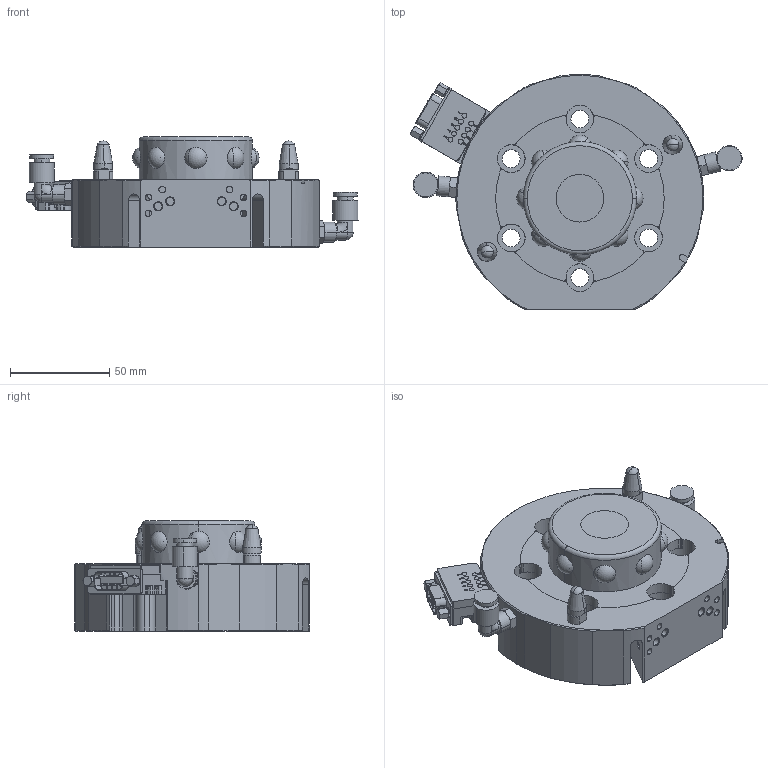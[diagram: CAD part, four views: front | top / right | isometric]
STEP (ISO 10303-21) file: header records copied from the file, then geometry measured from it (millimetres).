
FILE_DESCRIPTION (( 'STEP AP203' ), '1' );
FILE_NAME ('NSK-60D-¿Í»§.STEP', '2024-01-13T01:47:44', ( '' ), ( '' ), 'SwSTEP 2.0', 'SolidWorks 2018', '' );
FILE_SCHEMA (( 'CONFIG_CONTROL_DESIGN' ));
Products named in the file (1): NSK-60D-諦誧
Bounding box: 167.37 x 118.41 x 55.5 mm (x, y, z)
Volume: 449117.4 mm3; surface area: 68933 mm2
Topology: 6 solids, 6 shells, 1336 faces, 3518 edges, 2303 vertices
Faces by surface type: plane 545, cylinder 362, bspline 241, cone 93, torus 49, sphere 46
Entity records: 57907 total; most frequent: CARTESIAN_POINT 26143, ORIENTED_EDGE 6950, DIRECTION 6022, EDGE_CURVE 3475, VERTEX_POINT 2278, AXIS2_PLACEMENT_3D 2189, LINE 1644, VECTOR 1644
